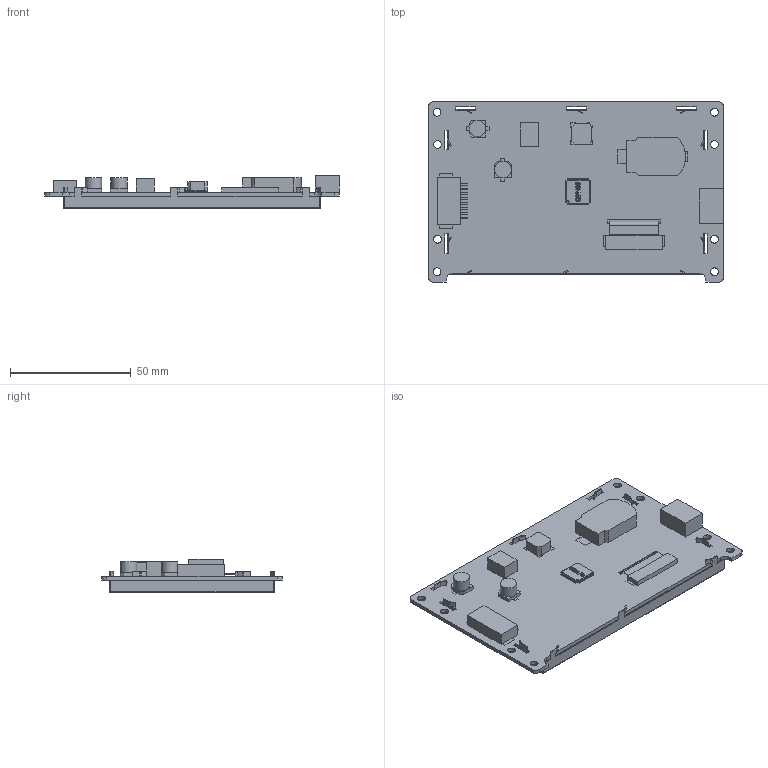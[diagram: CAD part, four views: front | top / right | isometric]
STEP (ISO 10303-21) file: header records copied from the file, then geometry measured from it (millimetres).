
FILE_DESCRIPTION(/* description */ (''),/* implementation_level */ '2;1');
FILE_NAME(/* name */ '',/* time_stamp */ '2023-07-26T18:34:54+08:00',/* author */ (''),/* organization */ (''),/* preprocessor_version */ 'ST-DEVELOPER v11',/* originating_system */ 'SIEMENS PLM Software NX 7.5',/* authorisation */ '');
FILE_SCHEMA (('AP203_CONFIGURATION_CONTROLLED_3D_DESIGN_OF_MECHANICAL_PARTS_AND_ASSEMBLIES_MIM_LF'));
Length unit declared in the file: millimetre
Products named in the file (1): 3D-SDWb043U74N_stp
Bounding box: 121.9 x 74.7 x 13.8 mm (x, y, z)
Volume: 47624.2 mm3; surface area: 46203.8 mm2
Topology: 17 solids, 17 shells, 1413 faces, 4048 edges, 2682 vertices
Faces by surface type: plane 1219, cylinder 187, bspline 7
Full cylindrical faces by diameter (mm): 3.2 x8, 6.776 x2
Entity records: 47558 total; most frequent: CARTESIAN_POINT 8565, ORIENTED_EDGE 8072, DIRECTION 7138, EDGE_CURVE 4036, LINE 3620, VECTOR 3620, VERTEX_POINT 2680, AXIS2_PLACEMENT_3D 1759
